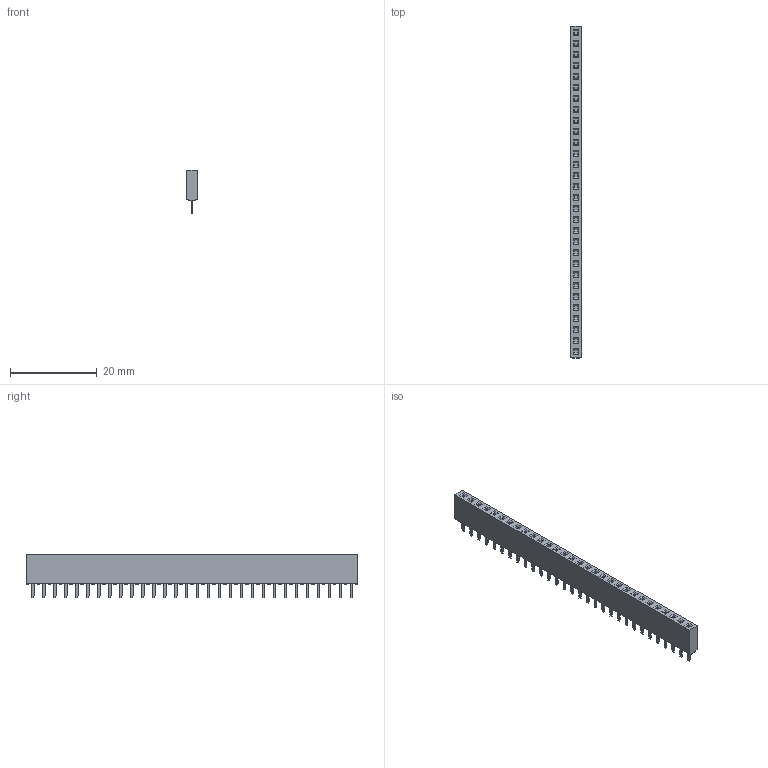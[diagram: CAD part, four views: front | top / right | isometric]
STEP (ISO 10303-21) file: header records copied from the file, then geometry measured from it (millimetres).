
FILE_DESCRIPTION(/* description */ (''),/* implementation_level */ '2;1');
FILE_NAME(/* name */ '960130-6202-XX',/* time_stamp */ '2007-06-18T07:50:25+02:00',/* author */ (''),/* organization */ (''),/* preprocessor_version */ 'ST-DEVELOPER v9',/* originating_system */ 'UGS - NX 4.0',/* authorisation */ '');
FILE_SCHEMA (('AUTOMOTIVE_DESIGN { 1 0 10303 214 1 1 1 1 }'));
Length unit declared in the file: millimetre
Products named in the file (1): 960130-6202-XX
Bounding box: 2.5 x 76.7 x 10.1 mm (x, y, z)
Volume: 1255.3 mm3; surface area: 1990.1 mm2
Topology: 1 solids, 1 shells, 701 faces, 1710 edges, 1100 vertices
Faces by surface type: plane 639, cylinder 62
Entity records: 20112 total; most frequent: CARTESIAN_POINT 3512, ORIENTED_EDGE 3420, DIRECTION 3238, EDGE_CURVE 1710, LINE 1586, VECTOR 1586, VERTEX_POINT 1100, AXIS2_PLACEMENT_3D 826
